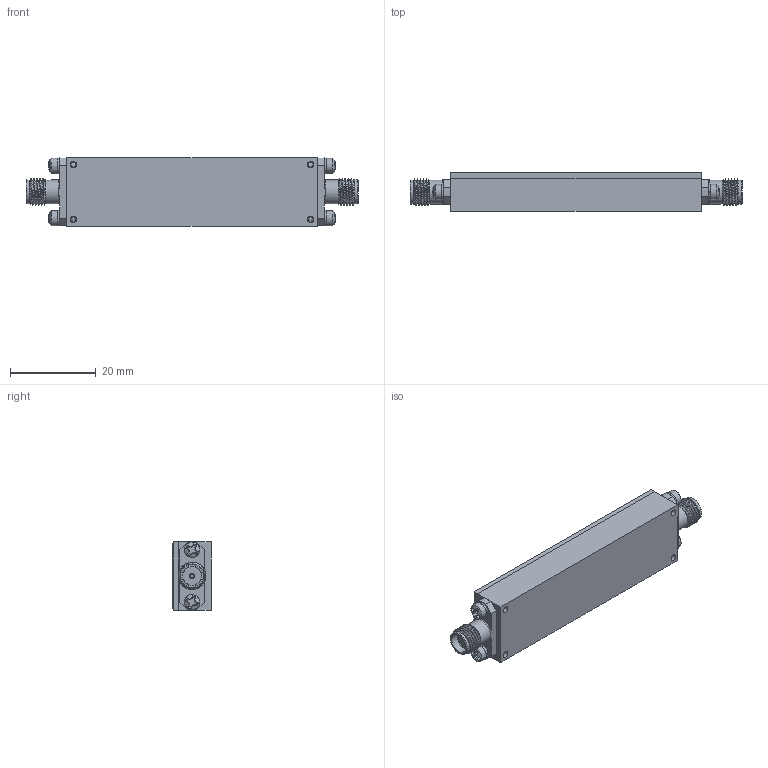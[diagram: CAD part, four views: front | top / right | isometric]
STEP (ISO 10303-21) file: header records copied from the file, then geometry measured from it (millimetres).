
FILE_DESCRIPTION (( 'STEP AP214' ), '1' );
FILE_NAME ('8CL6D9G-200-CD-SFF.STEP', '2026-03-31T15:27:00', ( '' ), ( '' ), 'SwSTEP 2.0', 'SolidWorks 2025', '' );
FILE_SCHEMA (( 'AUTOMOTIVE_DESIGN' ));
Length unit declared in the file: millimetre
Products named in the file (1): 8CL6D9G-200-CD-SFF
Bounding box: 77.47 x 8.92 x 15.88 mm (x, y, z)
Volume: 8208.1 mm3; surface area: 9627.7 mm2
Topology: 33 solids, 33 shells, 739 faces, 2581 edges, 2026 vertices
Faces by surface type: plane 536, cone 102, cylinder 89, bspline 6, sphere 4, torus 2
Full cylindrical faces by diameter (mm): 0.914 x2, 1.168 x2, 1.191 x4, 1.27 x2, 1.524 x20, 1.778 x20, 2.184 x8, 2.591 x4, 3.556 x4, 4.089 x2, 4.216 x1, 4.572 x2, 5.582 x4
Entity records: 37611 total; most frequent: CARTESIAN_POINT 13209, ORIENTED_EDGE 4680, DIRECTION 3479, EDGE_CURVE 2340, VERTEX_POINT 1940, VECTOR 1207, LINE 1207, AXIS2_PLACEMENT_3D 1136
